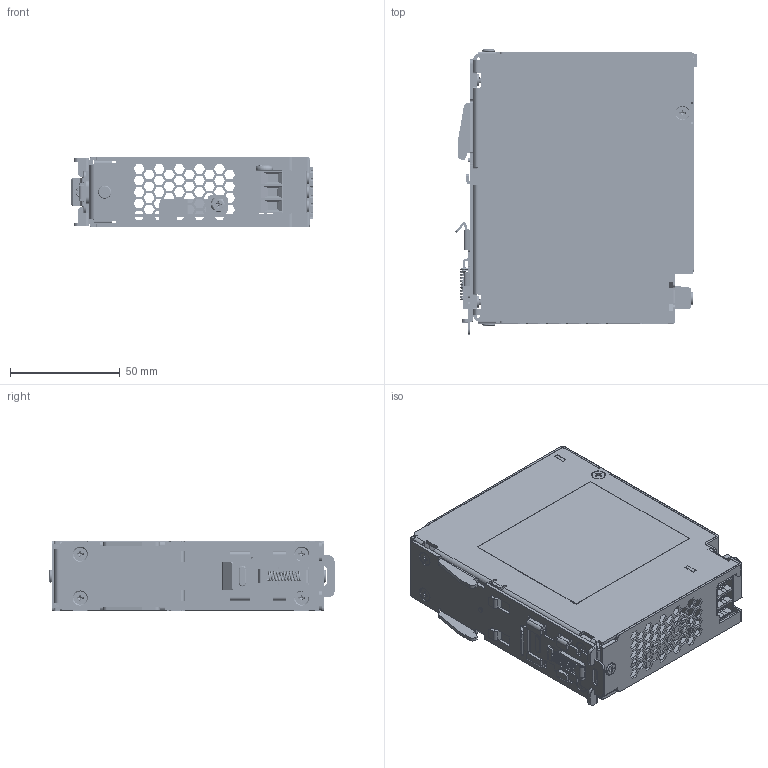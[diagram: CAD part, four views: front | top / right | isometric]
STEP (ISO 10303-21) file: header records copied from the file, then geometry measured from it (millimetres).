
FILE_DESCRIPTION((''),'2;1');
FILE_NAME('DRM-24V080W1PN_ASSEM_ASM','2015-12-03T',('chaiyuth.aimy'),(''),'PRO/ENGINEER BY PARAMETRIC TECHNOLOGY CORPORATION, 2010180','PRO/ENGINEER BY PARAMETRIC TECHNOLOGY CORPORATION, 2010180','');
FILE_SCHEMA(('CONFIG_CONTROL_DESIGN','SHAPE_APPEARANCE_LAYERS_GROUPS'));
Products named in the file (40): 330325570101; 330325630101; 326838880000-1; PWB_120W; INPUT_BOARD; MANIFOLD_SOLID_BREP_109968; MANIFOLD_SOLID_BREP_110161; MH150-635M804A302_A4_AF0_1_ASM; MH150-635M803_INPUT-CONNECTOR_A_ASM; DCT_INPUT_FRONT; EE_CY1; INPUT_BOARD_ASM; OUTPUT_BOARD; 1; MB332-381A06_ASM; MB332-381M02; MB332-M06_ASM; A2003WR0; 3074866734_WAFER6PIN_ASM; OUTPUT_BOARD_ASM; EE_LED_2301421631_GREEN_2; EE_LED_RED_1; VR_80_1; DCT_XXXX_CONTROL; ASSY_MAINBOARD_ASM; BASE_1234-1; BASE_1234-2; 3310679002_ASM; 3460088100; 3462026200; ASSY_1234_ASM; 3100000600-1; 326360850000; 3103300600-1; 324262130000; 324262460000; 324262150000; 3100000400; 3105039100_1; DRM-24V080W1PN_ASSEM_ASM
Assembly tree (54 placements, depth 6):
  DRM-24V080W1PN_ASSEM_ASM
    330325570101
    330325630101
    326838880000-1
    ASSY_MAINBOARD_ASM
      PWB_120W
      INPUT_BOARD_ASM
        INPUT_BOARD
        MH150-635M803_INPUT-CONNECTOR_A_ASM
          MH150-635M804A302_A4_AF0_1_ASM
            MANIFOLD_SOLID_BREP_109968
            MANIFOLD_SOLID_BREP_110161
        DCT_INPUT_FRONT
        EE_CY1  x2
      OUTPUT_BOARD_ASM
        OUTPUT_BOARD
        MB332-381A06_ASM
          1
        MB332-M06_ASM
          MB332-381M02  x3
        3074866734_WAFER6PIN_ASM
          A2003WR0  x6
      EE_LED_2301421631_GREEN_2
      EE_LED_RED_1
      VR_80_1
      DCT_XXXX_CONTROL
    ASSY_1234_ASM
      3310679002_ASM
        BASE_1234-1
        BASE_1234-2
      3460088100
      3462026200
    3100000600-1  x6
    326360850000
    3103300600-1
    324262130000
    324262460000
    324262150000
    3100000400  x2
    3105039100_1  x2
Bounding box: 110.14 x 130 x 32.1 mm (x, y, z)
Volume: 96918.6 mm3; surface area: 196093.3 mm2
Topology: 50 solids, 50 shells, 6653 faces, 17632 edges, 11281 vertices
Faces by surface type: plane 4348, cylinder 1016, extrusion 769, bspline 223, cone 166, torus 131
Entity records: 249403 total; most frequent: CARTESIAN_POINT 57234, ORIENTED_EDGE 30488, DIRECTION 25604, PRESENTATION_STYLE_ASSIGNMENT 15743, STYLED_ITEM 15336, CURVE_STYLE 15244, EDGE_CURVE 15244, VECTOR 12302
